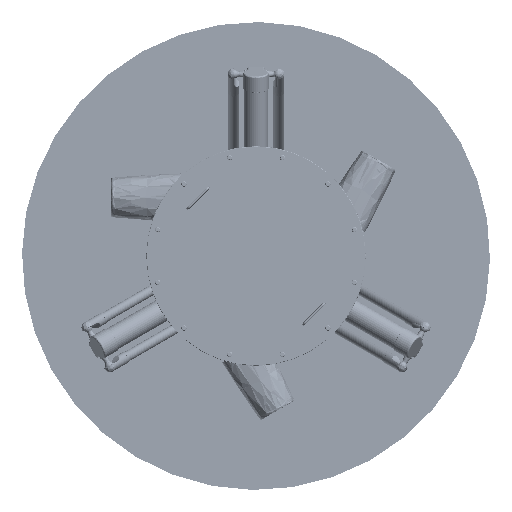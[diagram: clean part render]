
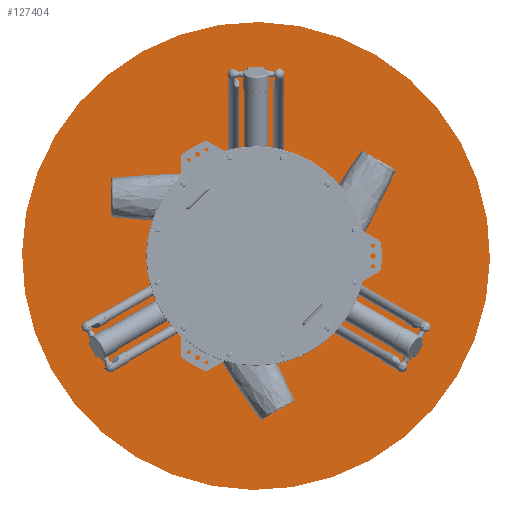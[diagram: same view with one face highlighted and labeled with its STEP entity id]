
A CAD part, front view. The second image highlights one B-rep face of the part: STEP entity #127404.
In plain terms, the highlighted planar face has unit normal (0, -1, 0) as drawn and (0, 1, 0) by its records, which use the part's own axes.
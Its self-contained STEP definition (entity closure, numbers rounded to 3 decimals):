
#2627 = CARTESIAN_POINT ( 'NONE',  ( -220.098, 221.23, 1600. ) ) ;
#20827 = AXIS2_PLACEMENT_3D ( 'NONE', #2627, #138877, #192268 ) ;
#53555 = DIRECTION ( 'NONE',  ( 0., -1., 0. ) ) ;
#60891 = CARTESIAN_POINT ( 'NONE',  ( -220.098, 221.23, 800. ) ) ;
#73518 = ORIENTED_EDGE ( 'NONE', *, *, #224857, .F. ) ;
#80703 = EDGE_CURVE ( 'NONE', #206044, #143407, #133345, .T. ) ;
#92426 = ORIENTED_EDGE ( 'NONE', *, *, #80703, .F. ) ;
#111433 = AXIS2_PLACEMENT_3D ( 'NONE', #214849, #216029, #273978 ) ;
#112470 = FACE_OUTER_BOUND ( 'NONE', #238570, .T. ) ;
#127404 = ADVANCED_FACE ( 'NONE', ( #112470 ), #163773, .T. ) ;
#133345 = CIRCLE ( 'NONE', #240651, 800. ) ;
#138877 = DIRECTION ( 'NONE',  ( 0., -1., 0. ) ) ;
#143407 = VERTEX_POINT ( 'NONE', #60891 ) ;
#162650 = DIRECTION ( 'NONE',  ( 0., 0., -1. ) ) ;
#163773 = PLANE ( 'NONE',  #111433 ) ;
#192268 = DIRECTION ( 'NONE',  ( 0., 0., -1. ) ) ;
#206044 = VERTEX_POINT ( 'NONE', #243783 ) ;
#214849 = CARTESIAN_POINT ( 'NONE',  ( -220.098, 221.23, 1600. ) ) ;
#216029 = DIRECTION ( 'NONE',  ( 0., 1., 0. ) ) ;
#224857 = EDGE_CURVE ( 'NONE', #143407, #206044, #229125, .T. ) ;
#229125 = CIRCLE ( 'NONE', #20827, 800. ) ;
#238570 = EDGE_LOOP ( 'NONE', ( #73518, #92426 ) ) ;
#240651 = AXIS2_PLACEMENT_3D ( 'NONE', #328287, #53555, #162650 ) ;
#243783 = CARTESIAN_POINT ( 'NONE',  ( -220.098, 221.23, 2400. ) ) ;
#273978 = DIRECTION ( 'NONE',  ( 0., 0., 1. ) ) ;
#328287 = CARTESIAN_POINT ( 'NONE',  ( -220.098, 221.23, 1600. ) ) ;
